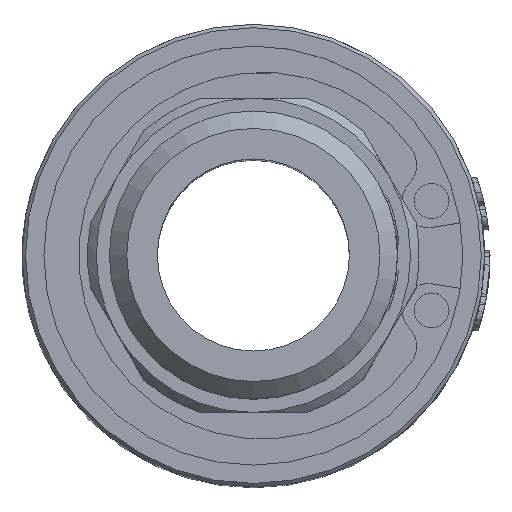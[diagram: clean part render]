
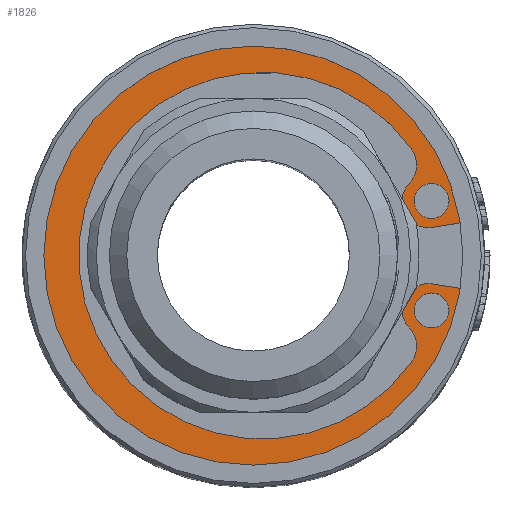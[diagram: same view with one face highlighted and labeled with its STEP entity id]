
A CAD part, top view. The second image highlights one B-rep face of the part: STEP entity #1826.
In plain terms, the highlighted planar face has unit normal (0, 0, 1).
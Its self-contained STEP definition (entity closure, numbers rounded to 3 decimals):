
#216=FACE_BOUND('',#5833,.T.);
#217=FACE_BOUND('',#5834,.T.);
#218=FACE_BOUND('',#5835,.T.);
#326=CIRCLE('',#21516,12.6);
#351=CIRCLE('',#21559,1.5);
#352=CIRCLE('',#21561,1.5);
#353=CIRCLE('',#21563,0.75);
#354=CIRCLE('',#21566,0.75);
#355=CIRCLE('',#21568,1.5);
#356=CIRCLE('',#21570,1.5);
#357=CIRCLE('',#21573,10.5);
#358=CIRCLE('',#21575,1.);
#359=CIRCLE('',#21576,1.);
#707=PLANE('',#21577);
#978=LINE('',#40757,#3628);
#983=LINE('',#40773,#3633);
#1826=ADVANCED_FACE('',(#216,#217,#218),#707,.T.);
#3628=VECTOR('',#23097,1.);
#3633=VECTOR('',#23116,1.);
#5833=EDGE_LOOP('',(#10020,#10021,#10022,#10023,#10024,#10025,#10026,#10027,
#10028,#10029));
#5834=EDGE_LOOP('',(#10030));
#5835=EDGE_LOOP('',(#10031));
#10020=ORIENTED_EDGE('',*,*,#16974,.T.);
#10021=ORIENTED_EDGE('',*,*,#16929,.F.);
#10022=ORIENTED_EDGE('',*,*,#16978,.F.);
#10023=ORIENTED_EDGE('',*,*,#16984,.T.);
#10024=ORIENTED_EDGE('',*,*,#16982,.F.);
#10025=ORIENTED_EDGE('',*,*,#16980,.F.);
#10026=ORIENTED_EDGE('',*,*,#16985,.F.);
#10027=ORIENTED_EDGE('',*,*,#16970,.T.);
#10028=ORIENTED_EDGE('',*,*,#16972,.T.);
#10029=ORIENTED_EDGE('',*,*,#16976,.F.);
#10030=ORIENTED_EDGE('',*,*,#16986,.F.);
#10031=ORIENTED_EDGE('',*,*,#16987,.T.);
#14064=VERTEX_POINT('',#40639);
#14066=VERTEX_POINT('',#40642);
#14098=VERTEX_POINT('',#40744);
#14099=VERTEX_POINT('',#40746);
#14100=VERTEX_POINT('',#40750);
#14101=VERTEX_POINT('',#40754);
#14102=VERTEX_POINT('',#40760);
#14103=VERTEX_POINT('',#40764);
#14104=VERTEX_POINT('',#40766);
#14105=VERTEX_POINT('',#40770);
#14106=VERTEX_POINT('',#40778);
#14107=VERTEX_POINT('',#40780);
#16929=EDGE_CURVE('',#14064,#14066,#326,.T.);
#16970=EDGE_CURVE('',#14099,#14098,#351,.T.);
#16972=EDGE_CURVE('',#14098,#14100,#352,.T.);
#16974=EDGE_CURVE('',#14101,#14066,#353,.T.);
#16976=EDGE_CURVE('',#14101,#14100,#978,.T.);
#16978=EDGE_CURVE('',#14102,#14064,#354,.T.);
#16980=EDGE_CURVE('',#14103,#14104,#355,.T.);
#16982=EDGE_CURVE('',#14104,#14105,#356,.T.);
#16984=EDGE_CURVE('',#14102,#14105,#983,.T.);
#16985=EDGE_CURVE('',#14099,#14103,#357,.T.);
#16986=EDGE_CURVE('',#14106,#14106,#358,.T.);
#16987=EDGE_CURVE('',#14107,#14107,#359,.T.);
#21516=AXIS2_PLACEMENT_3D('',#40641,#22984,#22985);
#21559=AXIS2_PLACEMENT_3D('',#40745,#23082,#23083);
#21561=AXIS2_PLACEMENT_3D('',#40749,#23087,#23088);
#21563=AXIS2_PLACEMENT_3D('',#40753,#23092,#23093);
#21566=AXIS2_PLACEMENT_3D('',#40761,#23101,#23102);
#21568=AXIS2_PLACEMENT_3D('',#40765,#23106,#23107);
#21570=AXIS2_PLACEMENT_3D('',#40769,#23111,#23112);
#21573=AXIS2_PLACEMENT_3D('',#40775,#23119,#23120);
#21575=AXIS2_PLACEMENT_3D('',#40777,#23123,#23124);
#21576=AXIS2_PLACEMENT_3D('',#40779,#23125,#23126);
#21577=AXIS2_PLACEMENT_3D('',#40781,#23127,#23128);
#22984=DIRECTION('',(0.,0.,-1.));
#22985=DIRECTION('',(1.,0.,0.));
#23082=DIRECTION('',(0.,0.,-1.));
#23083=DIRECTION('',(1.,0.,0.));
#23087=DIRECTION('',(0.,0.,1.));
#23088=DIRECTION('',(1.,0.,0.));
#23092=DIRECTION('',(0.,0.,1.));
#23093=DIRECTION('',(1.,0.,0.));
#23097=DIRECTION('',(-0.988,-0.156,0.));
#23101=DIRECTION('',(0.,0.,-1.));
#23102=DIRECTION('',(1.,0.,0.));
#23106=DIRECTION('',(0.,0.,1.));
#23107=DIRECTION('',(1.,0.,0.));
#23111=DIRECTION('',(0.,0.,-1.));
#23112=DIRECTION('',(1.,0.,0.));
#23116=DIRECTION('',(-0.988,0.156,0.));
#23119=DIRECTION('',(0.,0.,1.));
#23120=DIRECTION('',(1.,0.,0.));
#23123=DIRECTION('',(0.,0.,1.));
#23124=DIRECTION('',(1.,0.,0.));
#23125=DIRECTION('',(0.,0.,-1.));
#23126=DIRECTION('',(1.,0.,0.));
#23127=DIRECTION('',(0.,0.,1.));
#23128=DIRECTION('',(1.,0.,0.));
#40639=CARTESIAN_POINT('',(12.295,-2.755,34.2));
#40641=CARTESIAN_POINT('',(0.,0.,34.2));
#40642=CARTESIAN_POINT('',(12.295,2.755,34.2));
#40744=CARTESIAN_POINT('',(8.929,4.147,34.2));
#40745=CARTESIAN_POINT('',(7.852,5.191,34.2));
#40746=CARTESIAN_POINT('',(9.077,6.057,34.2));
#40749=CARTESIAN_POINT('',(10.006,3.104,34.2));
#40750=CARTESIAN_POINT('',(10.241,1.622,34.2));
#40753=CARTESIAN_POINT('',(11.563,2.591,34.2));
#40754=CARTESIAN_POINT('',(11.681,1.85,34.2));
#40757=CARTESIAN_POINT('',(0.,0.,34.2));
#40760=CARTESIAN_POINT('',(11.681,-1.85,34.2));
#40761=CARTESIAN_POINT('',(11.563,-2.591,34.2));
#40764=CARTESIAN_POINT('',(9.077,-6.057,34.2));
#40765=CARTESIAN_POINT('',(7.852,-5.191,34.2));
#40766=CARTESIAN_POINT('',(8.929,-4.147,34.2));
#40769=CARTESIAN_POINT('',(10.006,-3.104,34.2));
#40770=CARTESIAN_POINT('',(10.241,-1.622,34.2));
#40773=CARTESIAN_POINT('',(0.,0.,34.2));
#40775=CARTESIAN_POINT('',(0.5,0.,34.2));
#40777=CARTESIAN_POINT('',(10.204,3.135,34.2));
#40778=CARTESIAN_POINT('',(11.204,3.135,34.2));
#40779=CARTESIAN_POINT('',(10.204,-3.135,34.2));
#40780=CARTESIAN_POINT('',(11.204,-3.135,34.2));
#40781=CARTESIAN_POINT('',(0.,0.,34.2));
